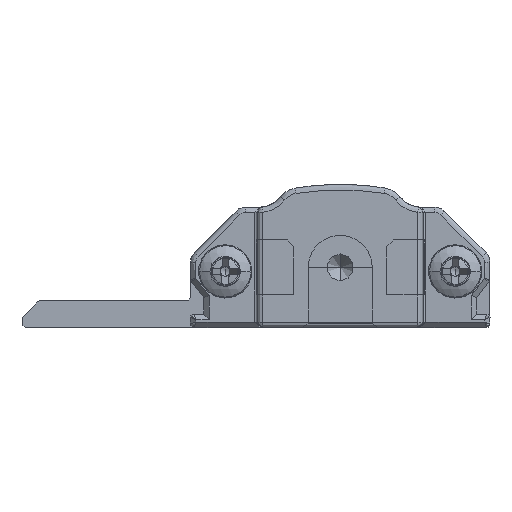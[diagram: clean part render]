
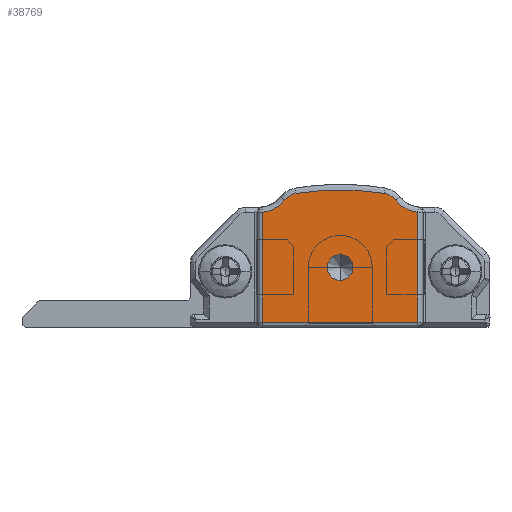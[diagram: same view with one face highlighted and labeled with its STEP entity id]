
A CAD part, front view. The second image highlights one B-rep face of the part: STEP entity #38769.
In plain terms, the highlighted planar face has unit normal (0, -1, 0).
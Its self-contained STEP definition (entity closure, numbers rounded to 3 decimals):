
#1014 = CARTESIAN_POINT ( 'NONE',  ( 5.4, -15., 0.4 ) ) ;
#1942 = EDGE_LOOP ( 'NONE', ( #15058, #4354, #26737, #35961, #17993, #32082, #36519, #7040 ) ) ;
#2404 = FACE_BOUND ( 'NONE', #38195, .T. ) ;
#2658 = CARTESIAN_POINT ( 'NONE',  ( 7.068, -15., 9.541 ) ) ;
#4354 = ORIENTED_EDGE ( 'NONE', *, *, #28006, .T. ) ;
#4526 = LINE ( 'NONE', #36521, #7108 ) ;
#5056 = DIRECTION ( 'NONE',  ( 0., -1., 0. ) ) ;
#5674 = AXIS2_PLACEMENT_3D ( 'NONE', #12586, #30463, #23109 ) ;
#7040 = ORIENTED_EDGE ( 'NONE', *, *, #27904, .T. ) ;
#7108 = VECTOR ( 'NONE', #43542, 1000. ) ;
#7322 = AXIS2_PLACEMENT_3D ( 'NONE', #43627, #5056, #18997 ) ;
#7964 = AXIS2_PLACEMENT_3D ( 'NONE', #26353, #36653, #27888 ) ;
#8981 = FACE_OUTER_BOUND ( 'NONE', #1942, .T. ) ;
#9649 = CARTESIAN_POINT ( 'NONE',  ( 22.15, -15., 3.606 ) ) ;
#10058 = CARTESIAN_POINT ( 'NONE',  ( 7.892, -15., 10.034 ) ) ;
#10275 = EDGE_CURVE ( 'NONE', #25485, #31946, #34192, .T. ) ;
#10652 = CARTESIAN_POINT ( 'NONE',  ( 17., -15., 8.612 ) ) ;
#11136 = AXIS2_PLACEMENT_3D ( 'NONE', #9649, #26605, #40733 ) ;
#12424 = PLANE ( 'NONE',  #11136 ) ;
#12586 = CARTESIAN_POINT ( 'NONE',  ( 5.162, -15., 11. ) ) ;
#13395 = DIRECTION ( 'NONE',  ( 0., 0., 1. ) ) ;
#15058 = ORIENTED_EDGE ( 'NONE', *, *, #43006, .T. ) ;
#16620 = DIRECTION ( 'NONE',  ( 0., 0., -1. ) ) ;
#17993 = ORIENTED_EDGE ( 'NONE', *, *, #34842, .T. ) ;
#18997 = DIRECTION ( 'NONE',  ( 0., 0., -1. ) ) ;
#19402 = VECTOR ( 'NONE', #13395, 1000. ) ;
#19743 = EDGE_CURVE ( 'NONE', #35625, #35180, #44422, .T. ) ;
#19745 = CIRCLE ( 'NONE', #7322, 1. ) ;
#19805 = CIRCLE ( 'NONE', #36625, 1.3 ) ;
#19890 = VERTEX_POINT ( 'NONE', #28790 ) ;
#20024 = CARTESIAN_POINT ( 'NONE',  ( 17.238, -15., 11. ) ) ;
#20158 = VERTEX_POINT ( 'NONE', #10652 ) ;
#20248 = DIRECTION ( 'NONE',  ( 0., 0., -1. ) ) ;
#21053 = VERTEX_POINT ( 'NONE', #28409 ) ;
#21232 = LINE ( 'NONE', #41759, #29376 ) ;
#21239 = EDGE_CURVE ( 'NONE', #19890, #33543, #21232, .T. ) ;
#22277 = CARTESIAN_POINT ( 'NONE',  ( 15.332, -15., 9.541 ) ) ;
#22865 = CARTESIAN_POINT ( 'NONE',  ( 14.508, -15., 10.034 ) ) ;
#23109 = DIRECTION ( 'NONE',  ( 0., 0., -1. ) ) ;
#23159 = CARTESIAN_POINT ( 'NONE',  ( 11.2, -15., 5.5 ) ) ;
#23808 = CIRCLE ( 'NONE', #40612, 1.3 ) ;
#23902 = CIRCLE ( 'NONE', #25373, 2.4 ) ;
#24539 = DIRECTION ( 'NONE',  ( 0., 0., -1. ) ) ;
#24658 = DIRECTION ( 'NONE',  ( 0., 0., -1. ) ) ;
#25373 = AXIS2_PLACEMENT_3D ( 'NONE', #20024, #34009, #20248 ) ;
#25431 = EDGE_CURVE ( 'NONE', #33416, #19890, #42130, .T. ) ;
#25485 = VERTEX_POINT ( 'NONE', #22865 ) ;
#25844 = DIRECTION ( 'NONE',  ( 0., -1., 0. ) ) ;
#26353 = CARTESIAN_POINT ( 'NONE',  ( 11.2, -15., 4.5 ) ) ;
#26605 = DIRECTION ( 'NONE',  ( 0., -1., 0. ) ) ;
#26737 = ORIENTED_EDGE ( 'NONE', *, *, #37990, .T. ) ;
#26829 = DIRECTION ( 'NONE',  ( 0., -1., 0. ) ) ;
#26860 = AXIS2_PLACEMENT_3D ( 'NONE', #39772, #25844, #24539 ) ;
#27491 = ORIENTED_EDGE ( 'NONE', *, *, #19743, .F. ) ;
#27888 = DIRECTION ( 'NONE',  ( 0., 0., -1. ) ) ;
#27904 = EDGE_CURVE ( 'NONE', #33543, #21053, #4526, .T. ) ;
#28006 = EDGE_CURVE ( 'NONE', #20158, #30269, #23902, .T. ) ;
#28409 = CARTESIAN_POINT ( 'NONE',  ( 17., -15., 0.4 ) ) ;
#28790 = CARTESIAN_POINT ( 'NONE',  ( 5.4, -15., 8.612 ) ) ;
#29376 = VECTOR ( 'NONE', #24658, 1000. ) ;
#30269 = VERTEX_POINT ( 'NONE', #22277 ) ;
#30463 = DIRECTION ( 'NONE',  ( 0., 1., 0. ) ) ;
#31946 = VERTEX_POINT ( 'NONE', #10058 ) ;
#32082 = ORIENTED_EDGE ( 'NONE', *, *, #25431, .T. ) ;
#33416 = VERTEX_POINT ( 'NONE', #2658 ) ;
#33543 = VERTEX_POINT ( 'NONE', #1014 ) ;
#34009 = DIRECTION ( 'NONE',  ( 0., 1., 0. ) ) ;
#34192 = CIRCLE ( 'NONE', #26860, 20.676 ) ;
#34842 = EDGE_CURVE ( 'NONE', #31946, #33416, #23808, .T. ) ;
#35180 = VERTEX_POINT ( 'NONE', #23159 ) ;
#35625 = VERTEX_POINT ( 'NONE', #42136 ) ;
#35961 = ORIENTED_EDGE ( 'NONE', *, *, #10275, .T. ) ;
#36519 = ORIENTED_EDGE ( 'NONE', *, *, #21239, .T. ) ;
#36521 = CARTESIAN_POINT ( 'NONE',  ( 17., -15., 0.4 ) ) ;
#36625 = AXIS2_PLACEMENT_3D ( 'NONE', #44147, #26829, #43914 ) ;
#36653 = DIRECTION ( 'NONE',  ( 0., -1., 0. ) ) ;
#37236 = DIRECTION ( 'NONE',  ( 0., -1., 0. ) ) ;
#37408 = EDGE_CURVE ( 'NONE', #35180, #35625, #19745, .T. ) ;
#37862 = LINE ( 'NONE', #44666, #19402 ) ;
#37990 = EDGE_CURVE ( 'NONE', #30269, #25485, #19805, .T. ) ;
#38195 = EDGE_LOOP ( 'NONE', ( #27491, #41446 ) ) ;
#38769 = ADVANCED_FACE ( 'NONE', ( #8981, #2404 ), #12424, .T. ) ;
#39772 = CARTESIAN_POINT ( 'NONE',  ( 11.2, -15., -10.376 ) ) ;
#40405 = CARTESIAN_POINT ( 'NONE',  ( 8.1, -15., 8.75 ) ) ;
#40612 = AXIS2_PLACEMENT_3D ( 'NONE', #40405, #37236, #16620 ) ;
#40733 = DIRECTION ( 'NONE',  ( 0., 0., -1. ) ) ;
#41446 = ORIENTED_EDGE ( 'NONE', *, *, #37408, .F. ) ;
#41759 = CARTESIAN_POINT ( 'NONE',  ( 5.4, -15., 0.4 ) ) ;
#42130 = CIRCLE ( 'NONE', #5674, 2.4 ) ;
#42136 = CARTESIAN_POINT ( 'NONE',  ( 11.2, -15., 3.5 ) ) ;
#43006 = EDGE_CURVE ( 'NONE', #21053, #20158, #37862, .T. ) ;
#43542 = DIRECTION ( 'NONE',  ( 1., 0., 0. ) ) ;
#43627 = CARTESIAN_POINT ( 'NONE',  ( 11.2, -15., 4.5 ) ) ;
#43914 = DIRECTION ( 'NONE',  ( 0., 0., -1. ) ) ;
#44147 = CARTESIAN_POINT ( 'NONE',  ( 14.3, -15., 8.75 ) ) ;
#44422 = CIRCLE ( 'NONE', #7964, 1. ) ;
#44666 = CARTESIAN_POINT ( 'NONE',  ( 17., -15., 8.612 ) ) ;
